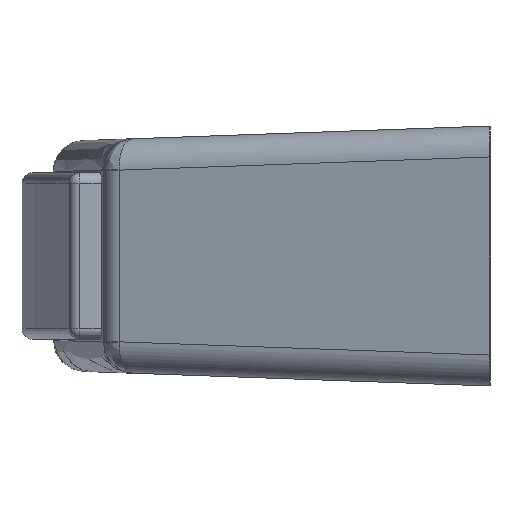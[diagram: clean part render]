
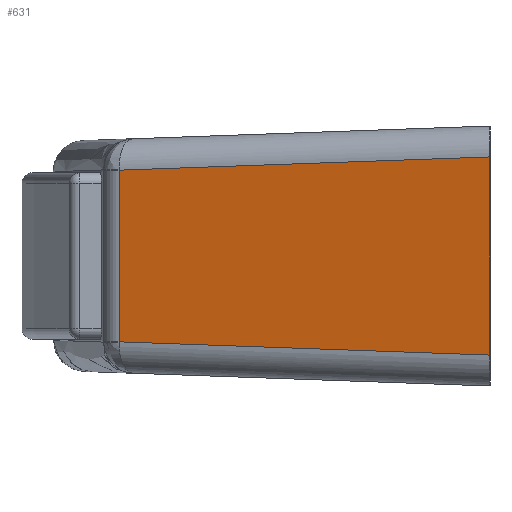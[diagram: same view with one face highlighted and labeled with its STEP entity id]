
A CAD part, left-side view. The second image highlights one B-rep face of the part: STEP entity #631.
In plain terms, the highlighted planar face has unit normal (-0.965, 0.261, 0).
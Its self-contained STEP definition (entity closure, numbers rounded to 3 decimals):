
#137 = DIRECTION ( 'NONE',  ( 0., 0., -1. ) ) ;
#221 = CARTESIAN_POINT ( 'NONE',  ( -97.771, 41.548, -8.042 ) ) ;
#270 = ORIENTED_EDGE ( 'NONE', *, *, #3111, .T. ) ;
#397 = AXIS2_PLACEMENT_3D ( 'NONE', #3540, #915, #2076 ) ;
#564 = EDGE_CURVE ( 'NONE', #1906, #2088, #3487, .T. ) ;
#631 = ADVANCED_FACE ( 'NONE', ( #3256 ), #2363, .F. ) ;
#696 = LINE ( 'NONE', #1858, #1199 ) ;
#812 = LINE ( 'NONE', #1591, #1189 ) ;
#886 = VERTEX_POINT ( 'NONE', #3285 ) ;
#915 = DIRECTION ( 'NONE',  ( 0.965, -0.261, 0. ) ) ;
#1020 = DIRECTION ( 'NONE',  ( 0.261, 0.965, -0.034 ) ) ;
#1142 = EDGE_CURVE ( 'NONE', #886, #2088, #812, .T. ) ;
#1154 = DIRECTION ( 'NONE',  ( -0.261, -0.965, -0.034 ) ) ;
#1162 = ORIENTED_EDGE ( 'NONE', *, *, #564, .T. ) ;
#1174 = CARTESIAN_POINT ( 'NONE',  ( -109., 0., -9.526 ) ) ;
#1184 = VECTOR ( 'NONE', #1154, 1000. ) ;
#1189 = VECTOR ( 'NONE', #137, 1000. ) ;
#1199 = VECTOR ( 'NONE', #1020, 1000. ) ;
#1268 = LINE ( 'NONE', #2155, #1328 ) ;
#1328 = VECTOR ( 'NONE', #2440, 1000. ) ;
#1591 = CARTESIAN_POINT ( 'NONE',  ( -109., 0., 128.599 ) ) ;
#1858 = CARTESIAN_POINT ( 'NONE',  ( -100.082, 32.998, 8.348 ) ) ;
#1906 = VERTEX_POINT ( 'NONE', #3608 ) ;
#2076 = DIRECTION ( 'NONE',  ( -0.261, -0.965, 0. ) ) ;
#2088 = VERTEX_POINT ( 'NONE', #1174 ) ;
#2155 = CARTESIAN_POINT ( 'NONE',  ( -99.36, 35.67, 128.599 ) ) ;
#2363 = PLANE ( 'NONE',  #397 ) ;
#2410 = ORIENTED_EDGE ( 'NONE', *, *, #1142, .F. ) ;
#2440 = DIRECTION ( 'NONE',  ( 0., 0., 1. ) ) ;
#2666 = EDGE_LOOP ( 'NONE', ( #3631, #1162, #2410, #270 ) ) ;
#2800 = EDGE_CURVE ( 'NONE', #1906, #3588, #1268, .T. ) ;
#3111 = EDGE_CURVE ( 'NONE', #886, #3588, #696, .T. ) ;
#3256 = FACE_OUTER_BOUND ( 'NONE', #2666, .T. ) ;
#3285 = CARTESIAN_POINT ( 'NONE',  ( -109., 0., 9.526 ) ) ;
#3485 = CARTESIAN_POINT ( 'NONE',  ( -99.36, 35.67, 8.252 ) ) ;
#3487 = LINE ( 'NONE', #221, #1184 ) ;
#3540 = CARTESIAN_POINT ( 'NONE',  ( -99., 37., 128.599 ) ) ;
#3588 = VERTEX_POINT ( 'NONE', #3485 ) ;
#3608 = CARTESIAN_POINT ( 'NONE',  ( -99.36, 35.67, -8.252 ) ) ;
#3631 = ORIENTED_EDGE ( 'NONE', *, *, #2800, .F. ) ;
